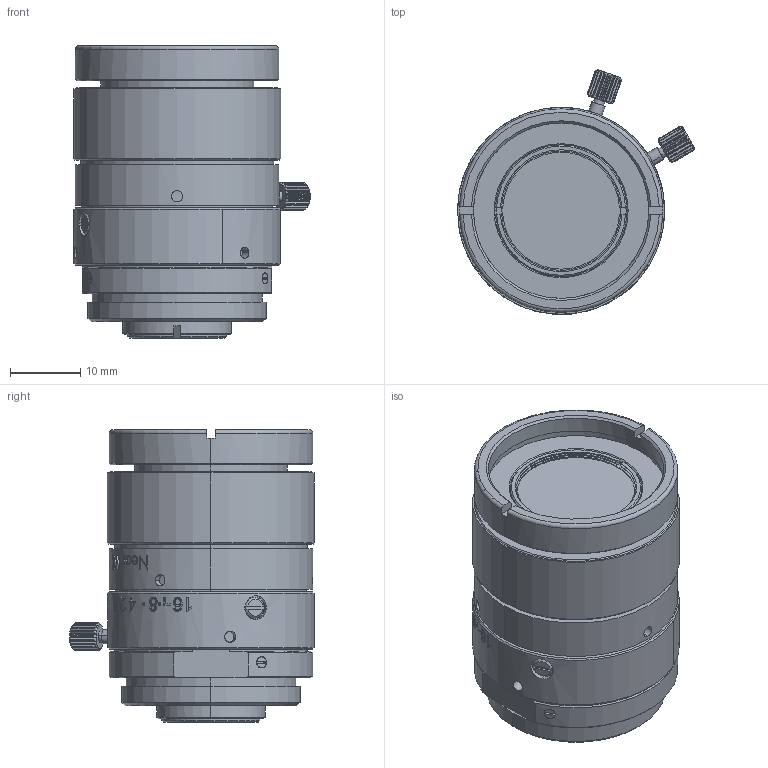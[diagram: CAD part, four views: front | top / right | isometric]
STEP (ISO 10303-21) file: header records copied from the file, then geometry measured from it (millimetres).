
FILE_DESCRIPTION (( 'STEP AP203' ), '1' );
FILE_NAME ('3d_ml-m0818hr_a003.STEP', '2019-04-12T00:36:57', ( '' ), ( '' ), 'SwSTEP 2.0', 'SolidWorks 2014', '' );
FILE_SCHEMA (( 'CONFIG_CONTROL_DESIGN' ));
Products named in the file (1): 3d_ml-m0818hr_a003
Bounding box: 33.74 x 34.89 x 41.68 mm (x, y, z)
Volume: 23401.4 mm3; surface area: 7621.3 mm2
Topology: 1 solids, 1 shells, 877 faces, 2331 edges, 1540 vertices
Faces by surface type: cylinder 315, plane 301, bspline 187, cone 72, torus 2
Entity records: 47295 total; most frequent: CARTESIAN_POINT 27761, ORIENTED_EDGE 4662, DIRECTION 3039, EDGE_CURVE 2331, VERTEX_POINT 1540, AXIS2_PLACEMENT_3D 1163, B_SPLINE_CURVE_WITH_KNOTS 1144, EDGE_LOOP 961
